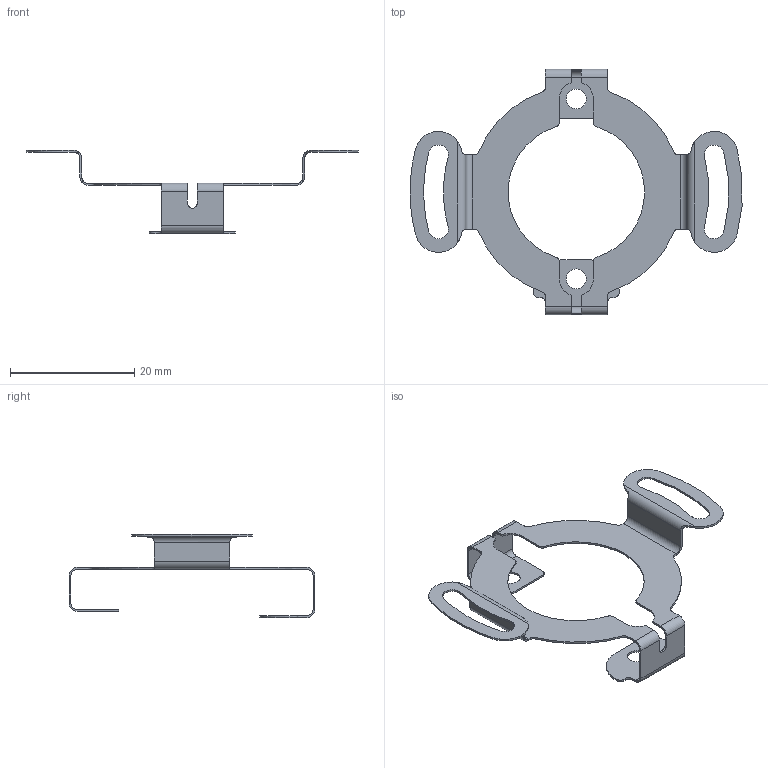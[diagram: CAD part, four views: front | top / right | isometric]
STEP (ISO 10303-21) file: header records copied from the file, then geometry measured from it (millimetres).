
FILE_DESCRIPTION (( 'STEP AP214' ), '1' );
FILE_NAME ('8.0010.4C00.0000.STEP', '2008-10-23T07:58:14', ( 'admin' ), ( 'Fritz Kübler GmbH' ), 'SwSTEP 2.0', 'SolidWorks 2008', '' );
FILE_SCHEMA (( 'AUTOMOTIVE_DESIGN' ));
Length unit declared in the file: millimetre
Products named in the file (1): 8.0010.4C00.0000
Bounding box: 53.5 x 39.6 x 13.4 mm (x, y, z)
Volume: 339.9 mm3; surface area: 2402.3 mm2
Topology: 1 solids, 1 shells, 124 faces, 372 edges, 248 vertices
Faces by surface type: cylinder 82, plane 42
Entity records: 4391 total; most frequent: CARTESIAN_POINT 897, DIRECTION 746, ORIENTED_EDGE 744, EDGE_CURVE 372, AXIS2_PLACEMENT_3D 273, VERTEX_POINT 248, LINE 200, VECTOR 200
